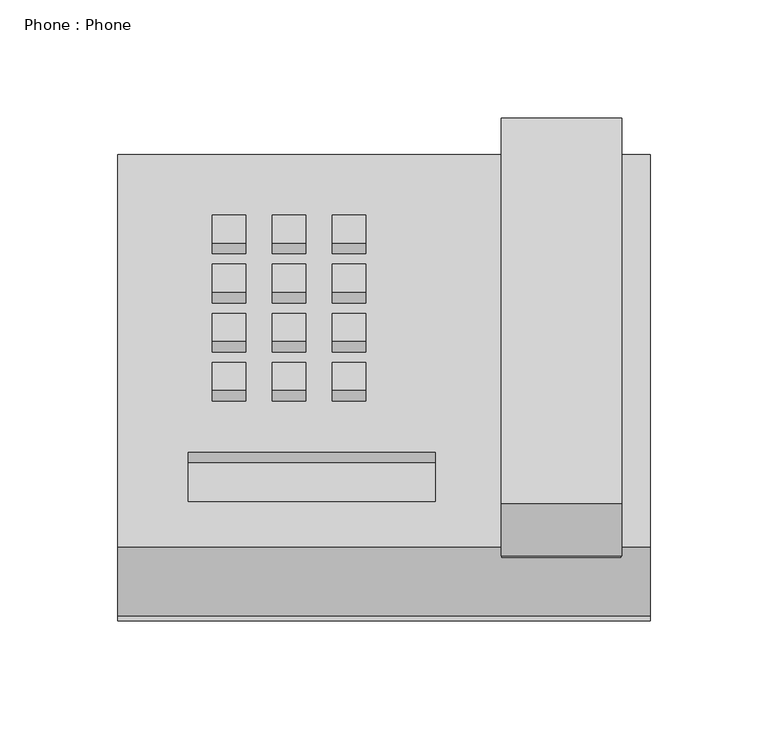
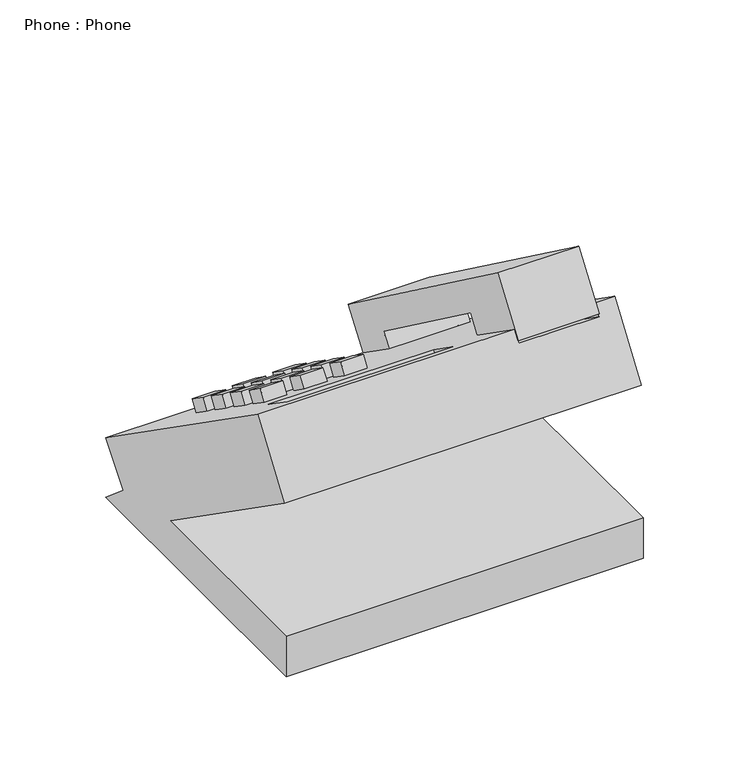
"""IFC4 building model written with IfcOpenShell, lengths in millimetres: proxy geometry, Phone : Phone."""

import ifcopenshell
import ifcopenshell.guid

model = None  # the IFC model being written
_history = None  # IfcOwnerHistory: only IFC2X3 demands one
_inside = {}  # id of a spatial element -> (the spatial element, [elements in it])
_under = {}  # id of a project, library or spatial element -> (it, [spatial elements below it])
_declared = {}  # id of a project -> (the project, [libraries it declares])
_typed = {}  # id of a type object -> (the type object, [elements of that type])
_made_of = {}  # id of a material, layer set ... -> (it, [elements and type objects made of it])


def new_model(schema):
    """Start an empty IFC model of exactly this schema.

    Asked for "IFC4X3", IfcOpenShell would pick the latest addendum, in which some entities
    have other attributes; the version numbers below select the first issue.
    IFC2X3 requires an IfcOwnerHistory on every rooted entity: one is made here for all.
    """
    global model, _history
    if schema == "IFC4X3":
        model = ifcopenshell.file(schema_version=(4, 3, 0, 0))
    else:
        model = ifcopenshell.file(schema=schema)
    _inside.clear()
    _under.clear()
    _declared.clear()
    _typed.clear()
    _made_of.clear()
    _history = None
    if model.schema == "IFC2X3":
        org = make("IfcOrganization", Name="unknown")
        user = make(
            "IfcPersonAndOrganization",
            ThePerson=make("IfcPerson", FamilyName="unknown"),
            TheOrganization=org,
        )
        app = make(
            "IfcApplication",
            ApplicationDeveloper=org,
            Version="unknown",
            ApplicationFullName="unknown",
            ApplicationIdentifier="unknown",
        )
        _history = make(
            "IfcOwnerHistory",
            OwningUser=user,
            OwningApplication=app,
            ChangeAction="ADDED",
            CreationDate=0,
        )
    return model


def make(cls, **values):
    """One entity of the class cls with the attributes given. An attribute that is None is left unset."""
    return model.create_entity(
        cls, **{name: value for name, value in values.items() if value is not None}
    )


def rooted(cls, **values):
    """An entity with a GlobalId (a new one), such as an element, a storey or a relation."""
    return make(cls, GlobalId=ifcopenshell.guid.new(), OwnerHistory=_history, **values)


def si_unit(unit_type, name, prefix=None):
    """IfcSIUnit, for example si_unit("LENGTHUNIT", "METRE", prefix="MILLI")."""
    return make("IfcSIUnit", UnitType=unit_type, Prefix=prefix, Name=name)


def assignment(units):
    """IfcUnitAssignment: the units of a project."""
    return None if units is None else make("IfcUnitAssignment", Units=units)


def point(xyz):
    """IfcCartesianPoint."""
    return None if xyz is None else make("IfcCartesianPoint", Coordinates=xyz)


def direction(xyz):
    """IfcDirection."""
    return None if xyz is None else make("IfcDirection", DirectionRatios=xyz)


def frame(location, z_axis=None, x_axis=None):
    """IfcAxis2Placement3D, a coordinate frame: its origin and axes. An axis left out is left unset."""
    return make(
        "IfcAxis2Placement3D",
        Location=point(location),
        Axis=direction(z_axis),
        RefDirection=direction(x_axis),
    )


def origin():
    """The frame at (0, 0, 0) with its axes left unset."""
    return frame((0.0, 0.0, 0.0))


def place(relative_to, where):
    """IfcLocalPlacement: puts the frame where relative to a parent placement (None: the world)."""
    return make(
        "IfcLocalPlacement", PlacementRelTo=relative_to, RelativePlacement=where
    )


def context(
    kind, dimensions, precision=None, world=None, true_north=None, identifier=None
):
    """IfcGeometricRepresentationContext, for example the 3D "Model" context."""
    return make(
        "IfcGeometricRepresentationContext",
        ContextIdentifier=identifier,
        ContextType=kind,
        CoordinateSpaceDimension=dimensions,
        Precision=precision,
        WorldCoordinateSystem=world,
        TrueNorth=true_north,
    )


def project(units=None, contexts=None):
    """IfcProject with its units and contexts."""
    return rooted(
        "IfcProject",
        Name="project",
        RepresentationContexts=contexts,
        UnitsInContext=assignment(units),
    )


def spatial(cls, under=None, at=None, **own):
    """A site, building, storey or space (cls), placed at a placement, below another one or the project."""
    s = rooted(cls, ObjectPlacement=at, **own)
    if under is not None:
        _under.setdefault(under.id(), (under, []))[1].append(s)
    return s


def polyline(points):
    """IfcPolyline through the points."""
    return make("IfcPolyline", Points=[point(p) for p in points])


def circle_curve(where, radius):
    """IfcCircle in the frame where."""
    return make("IfcCircle", Position=where, Radius=radius)


def outline(outer, holes=None, kind="AREA"):
    """IfcArbitraryClosedProfileDef: a profile drawn as a closed curve; with holes, ...WithVoids."""
    if holes is None:
        return make("IfcArbitraryClosedProfileDef", ProfileType=kind, OuterCurve=outer)
    return make(
        "IfcArbitraryProfileDefWithVoids",
        ProfileType=kind,
        OuterCurve=outer,
        InnerCurves=holes,
    )


def extrude(swept, where, along, depth):
    """IfcExtrudedAreaSolid: the profile swept, set in the frame where, extruded along a direction by depth."""
    return make(
        "IfcExtrudedAreaSolid",
        SweptArea=swept,
        Position=where,
        ExtrudedDirection=direction(along),
        Depth=depth,
    )


def shape(context_of_items, identifier, shape_type, items):
    """IfcShapeRepresentation: the items that make up one representation, for example the "Body"."""
    return make(
        "IfcShapeRepresentation",
        ContextOfItems=context_of_items,
        RepresentationIdentifier=identifier,
        RepresentationType=shape_type,
        Items=items,
    )


def source(mapping_origin, context_of_items, identifier, shape_type, items):
    """IfcRepresentationMap: a shape defined once, which mapped items show again and again."""
    return make(
        "IfcRepresentationMap",
        MappingOrigin=mapping_origin,
        MappedRepresentation=shape(context_of_items, identifier, shape_type, items),
    )


def transform(
    local_origin,
    x_axis=None,
    y_axis=None,
    z_axis=None,
    scale=None,
    scale2=None,
    scale3=None,
    uniform=True,
):
    """IfcCartesianTransformationOperator3D, or its non-uniform kind. x_axis, y_axis, z_axis: its Axis1, 2, 3."""
    if uniform:
        return make(
            "IfcCartesianTransformationOperator3D",
            Axis1=direction(x_axis),
            Axis2=direction(y_axis),
            LocalOrigin=point(local_origin),
            Scale=scale,
            Axis3=direction(z_axis),
        )
    return make(
        "IfcCartesianTransformationOperator3DnonUniform",
        Axis1=direction(x_axis),
        Axis2=direction(y_axis),
        LocalOrigin=point(local_origin),
        Scale=scale,
        Axis3=direction(z_axis),
        Scale2=scale2,
        Scale3=scale3,
    )


def mapped(mapping_source, mapping_target):
    """IfcMappedItem: shows the shape of a source again, moved by a transform."""
    return make(
        "IfcMappedItem", MappingSource=mapping_source, MappingTarget=mapping_target
    )


def made_of(thing, what):
    """Note that an element or type object is made of a material, layer set ...; save() writes the relation."""
    if what is not None:
        _made_of.setdefault(what.id(), (what, []))[1].append(thing)
    return thing


def element(
    cls,
    number,
    at=None,
    inside=None,
    cuts=None,
    type_object=None,
    material=None,
    context=None,
    identifier="Body",
    shape_type=None,
    held_by="IfcProductDefinitionShape",
    body=None,
    shapes=None,
    **own,
):
    """One element of the class cls, such as IfcWall. Its Tag is "e" and its number.

    at: its placement. inside: the storey or other place that contains it. cuts: it is an
    opening in that element (IfcRelVoidsElement). A single representation is given by context,
    identifier, shape_type and body (its items); several are given by shapes. held_by: the class
    of the entity that holds the representations. save() writes the other relations.
    """
    e = rooted(cls, Tag="e%d" % number, ObjectPlacement=at, **own)
    if body is not None:
        shapes = [shape(context, identifier, shape_type, body)]
    if shapes is not None:
        e.Representation = make(held_by, Representations=shapes)
    if inside is not None:
        _inside.setdefault(inside.id(), (inside, []))[1].append(e)
    if cuts is not None:
        rooted(
            "IfcRelVoidsElement", RelatingBuildingElement=cuts, RelatedOpeningElement=e
        )
    if type_object is not None:
        _typed.setdefault(type_object.id(), (type_object, []))[1].append(e)
    return made_of(e, material)


def aggregate(whole, parts):
    """IfcRelAggregates: a whole, such as a stair, and the parts it consists of."""
    return rooted("IfcRelAggregates", RelatingObject=whole, RelatedObjects=parts)


def save(model, path):
    """Write the relations noted so far, then the file.

    IfcRelAggregates (storeys below a building ...), IfcRelContainedInSpatialStructure (elements
    in a storey), IfcRelDefinesByType, IfcRelAssociatesMaterial and IfcRelDeclares: one each for
    every whole, place, type object, material and project.
    """
    for whole, parts in _under.values():
        aggregate(whole, parts)
    for where, things in _inside.values():
        rooted(
            "IfcRelContainedInSpatialStructure",
            RelatedElements=things,
            RelatingStructure=where,
        )
    for kind, things in _typed.values():
        rooted("IfcRelDefinesByType", RelatedObjects=things, RelatingType=kind)
    for what, things in _made_of.values():
        rooted("IfcRelAssociatesMaterial", RelatedObjects=things, RelatingMaterial=what)
    for by, libraries in _declared.values():
        rooted("IfcRelDeclares", RelatingContext=by, RelatedDefinitions=libraries)
    model.write(path)


def plane_surface(at):
    """IfcPlane: the flat surface through the origin of the frame at, square to its z axis."""
    return make("IfcPlane", Position=at)


def revolved_surface(curve, axis_point, axis_direction):
    """IfcSurfaceOfRevolution: the curve turned about the line through axis_point along axis_direction."""
    return make(
        "IfcSurfaceOfRevolution",
        SweptCurve=make("IfcArbitraryOpenProfileDef", ProfileType="CURVE", Curve=curve),
        AxisPosition=make("IfcAxis1Placement", Location=point(axis_point), Axis=direction(axis_direction)),
    )


def advanced_brep(points, edges, surfaces, faces):
    """IfcAdvancedBrep: a solid bounded by faces that lie on surfaces and meet in shared edges.

    An edge is (start, end): straight between two places in points (the first is 0);
    or (start, end, curve); or (start, end, curve, False) where it runs against its curve.
    A face is (place in surfaces, loops), or (place, loops, False) where it looks against
    its surface's normal. A loop lists edges by number (the first is 1), with a minus sign
    where the edge is run from its end to its start. The first loop is the outer one.
    """
    corners = [point(p) for p in points]
    vertices = [make("IfcVertexPoint", VertexGeometry=c) for c in corners]
    made = []
    for start, end, *more in edges:
        made.append(
            make(
                "IfcEdgeCurve",
                EdgeStart=vertices[start],
                EdgeEnd=vertices[end],
                EdgeGeometry=more[0] if more else make("IfcPolyline", Points=[corners[start], corners[end]]),
                SameSense=more[1] if len(more) > 1 else True,
            )
        )
    hull = []
    for where, loops, *sense in faces:
        bounds = []
        for j, loop in enumerate(loops):
            ring = [make("IfcOrientedEdge", EdgeElement=made[abs(k) - 1], Orientation=k > 0) for k in loop]
            bounds.append(
                make(
                    "IfcFaceOuterBound" if j == 0 else "IfcFaceBound",
                    Bound=make("IfcEdgeLoop", EdgeList=ring),
                    Orientation=True,
                )
            )
        hull.append(make("IfcAdvancedFace", Bounds=bounds, FaceSurface=surfaces[where], SameSense=sense[0] if sense else True))
    return make("IfcAdvancedBrep", Outer=make("IfcClosedShell", CfsFaces=hull))


def phone_phone_5230e7aa(model_context):
    return source(origin(), model_context, "Body", "SolidModel", [
        extrude(outline(polyline([(192.7959916, 137.7049621), (181.7747369, 121.9649843), (140.703506, 150.723379), (162.9996365, 182.5655431), (326.4110834, 62.6228576), (305.0105645, 33.4665172), (277.2292229, 53.8577982), (287.6619827, 68.0708655), (192.7959916, 137.7049621)])), frame((-197.7434319, 0.0, 0.0), z_axis=(1.0, 0.0, 0.0), x_axis=(0.0, 1.0, 0.0)), (0.0, 0.0, 1.0), 51.1683357),
        extrude(outline(polyline([(14.2875, 0.0), (14.2875, -14.3927765), (0.0, -14.3927765), (0.0, 0.0), (14.2875, 0.0)])), frame((-255.1016834, 248.0305062, 83.5344382), z_axis=(0.0, 0.5735764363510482, 0.8191520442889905), x_axis=(-1.0, 0.0, 0.0)), (0.0, 0.0, 1.0), 7.9375),
        extrude(outline(polyline([(14.2875, 0.0), (14.2875, -14.3927765), (0.0, -14.3927765), (0.0, 0.0), (14.2875, 0.0)])), frame((-255.1016834, 268.8369681, 68.9655967), z_axis=(0.0, 0.5735764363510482, 0.8191520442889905), x_axis=(-1.0, 0.0, 0.0)), (0.0, 0.0, 1.0), 7.9375),
        extrude(outline(polyline([(14.2875, 0.0), (14.2875, -14.3927765), (0.0, -14.3927765), (0.0, 0.0), (14.2875, 0.0)])), frame((-280.5016834, 268.8369681, 68.9655967), z_axis=(0.0, 0.5735764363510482, 0.8191520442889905), x_axis=(-1.0, 0.0, 0.0)), (0.0, 0.0, 1.0), 7.9375),
        extrude(outline(polyline([(14.2875, 0.0), (14.2875, -14.3927765), (0.0, -14.3927765), (0.0, 0.0), (14.2875, 0.0)])), frame((-305.9016834, 268.8369681, 68.9655967), z_axis=(0.0, 0.5735764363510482, 0.8191520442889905), x_axis=(-1.0, 0.0, 0.0)), (0.0, 0.0, 1.0), 7.9375),
        extrude(outline(polyline([(14.2875, 0.0), (14.2875, -14.3927765), (0.0, -14.3927765), (0.0, 0.0), (14.2875, 0.0)])), frame((-305.9016834, 248.0305062, 83.5344382), z_axis=(0.0, 0.5735764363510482, 0.8191520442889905), x_axis=(-1.0, 0.0, 0.0)), (0.0, 0.0, 1.0), 7.9375),
        extrude(outline(polyline([(14.2875, 0.0), (14.2875, -14.3927765), (0.0, -14.3927765), (0.0, 0.0), (14.2875, 0.0)])), frame((-280.5016834, 227.2240442, 98.1032797), z_axis=(0.0, 0.5735764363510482, 0.8191520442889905), x_axis=(-1.0, 0.0, 0.0)), (0.0, 0.0, 1.0), 7.9375),
        extrude(outline(polyline([(14.2875, 0.0), (14.2875, -14.3927765), (0.0, -14.3927765), (0.0, 0.0), (14.2875, 0.0)])), frame((-305.9016834, 227.2240442, 98.1032797), z_axis=(0.0, 0.5735764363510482, 0.8191520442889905), x_axis=(-1.0, 0.0, 0.0)), (0.0, 0.0, 1.0), 7.9375),
        extrude(outline(polyline([(14.2875, 0.0), (14.2875, -14.3927765), (0.0, -14.3927765), (0.0, 0.0), (14.2875, 0.0)])), frame((-280.5016834, 248.0305062, 83.5344382), z_axis=(0.0, 0.5735764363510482, 0.8191520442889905), x_axis=(-1.0, 0.0, 0.0)), (0.0, 0.0, 1.0), 7.9375),
        extrude(outline(polyline([(14.2875, 0.0), (14.2875, -14.3927765), (0.0, -14.3927765), (0.0, 0.0), (14.2875, 0.0)])), frame((-255.1016834, 227.2240442, 98.1032797), z_axis=(0.0, 0.5735764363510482, 0.8191520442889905), x_axis=(-1.0, 0.0, 0.0)), (0.0, 0.0, 1.0), 7.9375),
        extrude(outline(polyline([(14.2875, 0.0), (14.2875, -14.3927765), (0.0, -14.3927765), (0.0, 0.0), (14.2875, 0.0)])), frame((-305.9016834, 206.4175823, 112.6721212), z_axis=(0.0, 0.5735764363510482, 0.8191520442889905), x_axis=(-1.0, 0.0, 0.0)), (0.0, 0.0, 1.0), 7.9375),
        extrude(outline(polyline([(14.2875, 0.0), (14.2875, -14.3927765), (0.0, -14.3927765), (0.0, 0.0), (14.2875, 0.0)])), frame((-280.5016834, 206.4175823, 112.6721212), z_axis=(0.0, 0.5735764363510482, 0.8191520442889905), x_axis=(-1.0, 0.0, 0.0)), (0.0, 0.0, 1.0), 7.9375),
        extrude(outline(polyline([(14.2875, 0.0), (14.2875, -14.3927765), (0.0, -14.3927765), (0.0, 0.0), (14.2875, 0.0)])), frame((-255.1016834, 206.4175823, 112.6721212), z_axis=(0.0, 0.5735764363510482, 0.8191520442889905), x_axis=(-1.0, 0.0, 0.0)), (0.0, 0.0, 1.0), 7.9375),
        advanced_brep(
        [(-134.6688462, 310.896229, 0.0), (-134.6688462, 291.4387001, 16.3268053), (-134.6688462, 310.896229, 39.5153852), (-134.6688462, 144.4445336, 156.0661171), (-134.6688462, 115.3068506, 114.4531932), (-134.6688462, 240.1456221, 27.0401443), (-134.6688462, 113.1456221, 27.0401443), (-134.6688462, 113.1456221, 0.0), (-360.0938462, 310.896229, 0.0), (-360.0938462, 113.1456221, 0.0), (-360.0938462, 113.1456221, 27.0401443), (-360.0938462, 240.1456221, 27.0401443), (-360.0938462, 115.3068506, 114.4531932), (-360.0938462, 144.4445336, 156.0661171), (-360.0938462, 310.896229, 39.5153852), (-360.0938462, 291.4387001, 16.3268053), (-197.7434319, 310.896229, 39.5153852), (-197.7434319, 305.774613, 33.411681), (-146.9434319, 305.774613, 33.411681), (-146.9434319, 310.896229, 39.5153852), (-146.9434319, 295.2913825, 50.4420163), (-197.7434319, 295.2913825, 50.4420163), (-197.7434319, 144.4445336, 156.0661171), (-197.7434319, 165.2509955, 141.4972756), (-146.9434319, 165.2509955, 141.4972756), (-146.9434319, 144.4445336, 156.0661171), (-225.6135974, 163.8453353, 142.4815295), (-330.264726, 163.8453353, 142.4815295), (-330.264726, 184.6517972, 127.912688), (-225.6135974, 184.6517972, 127.912688), (-146.9434319, 139.8917706, 149.5640977), (-197.7434319, 139.8917706, 149.5640977), (-330.264726, 159.2925723, 135.9795101), (-225.6135974, 159.2925723, 135.9795101), (-225.6135974, 180.0990342, 121.4106686), (-330.264726, 180.0990342, 121.4106686), (-146.9434319, 160.6982325, 134.9952562), (-197.7434319, 160.6982325, 134.9952562), (-197.7434319, 290.7386196, 43.939997), (-146.9434319, 290.7386196, 43.939997)],
        [
            (0, 1),
            (1, 2),
            (2, 3),
            (3, 4),
            (4, 5),
            (5, 6),
            (6, 7),
            (7, 0),
            (8, 9),
            (9, 10),
            (10, 11),
            (11, 12),
            (12, 13),
            (13, 14),
            (14, 15),
            (15, 8),
            (0, 8),
            (15, 1),
            (14, 16),
            (16, 17),
            (17, 18),
            (18, 19),
            (19, 2),
            (19, 20),
            (20, 21, circle_curve(frame((-172.3434319, 301.9734201, 45.7632032), z_axis=(0.0, -0.5735764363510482, -0.8191520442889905), x_axis=(-1.0, 0.0, 0.0)), 26.6777233)),
            (21, 16),
            (13, 22),
            (22, 23),
            (23, 24, circle_curve(frame((-172.3434319, 165.2509955, 141.4972756), z_axis=(0.0, -0.5735764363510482, -0.8191520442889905), x_axis=(-1.0, 0.0, 0.0)), 25.4)),
            (24, 25),
            (25, 3),
            (26, 27),
            (27, 28),
            (28, 29),
            (29, 26),
            (25, 30),
            (30, 31),
            (31, 22),
            (12, 4),
            (11, 5),
            (10, 6),
            (9, 7),
            (32, 33),
            (33, 34),
            (34, 35),
            (35, 32),
            (32, 27),
            (26, 33),
            (29, 34),
            (28, 35),
            (30, 36),
            (36, 37, circle_curve(frame((-172.3434319, 160.6982325, 134.9952562), z_axis=(0.0, 0.5735764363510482, 0.8191520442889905), x_axis=(-1.0, 0.0, 0.0)), 25.4)),
            (37, 31),
            (24, 36),
            (23, 37),
            (38, 39, circle_curve(frame((-172.3434319, 297.4206572, 39.2611839), z_axis=(0.0, 0.5735764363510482, 0.8191520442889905), x_axis=(-1.0, 0.0, 0.0)), 26.6777233)),
            (39, 18),
            (17, 38),
            (39, 20),
            (21, 38),
        ],
        [
            plane_surface(frame((-134.6688462, 310.896229, 0.0), z_axis=(1.0, 0.0, 0.0), x_axis=(0.0, -0.7660444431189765, 0.6427876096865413))),
            plane_surface(frame((-360.0938462, 310.896229, 0.0), z_axis=(-1.0, 0.0, 0.0), x_axis=(0.0, 0.7660444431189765, -0.6427876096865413))),
            plane_surface(frame((-134.6688462, 310.896229, 0.0), z_axis=(0.0, 0.6427876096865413, 0.7660444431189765), x_axis=(-1.0, 0.0, 0.0))),
            plane_surface(frame((-134.6688462, 291.4387001, 16.3268053), z_axis=(0.0, 0.7660444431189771, -0.6427876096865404), x_axis=(-1.0, 0.0, 0.0))),
            plane_surface(frame((-134.6688462, 310.896229, 39.5153852), z_axis=(0.0, 0.5735764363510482, 0.8191520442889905), x_axis=(-1.0, 0.0, 0.0))),
            plane_surface(frame((-134.6688462, 144.4445336, 156.0661171), z_axis=(0.0, -0.8191520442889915, 0.5735764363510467), x_axis=(-1.0, 0.0, 0.0))),
            plane_surface(frame((-134.6688462, 115.3068506, 114.4531932), z_axis=(0.0, -0.57357643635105, -0.819152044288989), x_axis=(-1.0, 0.0, 0.0))),
            plane_surface(frame((-134.6688462, 240.1456221, 27.0401443), z_axis=(0.0, 0.0, 1.0), x_axis=(-1.0, 0.0, 0.0))),
            plane_surface(frame((-134.6688462, 113.1456221, 27.0401443), z_axis=(0.0, -1.0, 0.0), x_axis=(-1.0, 0.0, 0.0))),
            plane_surface(frame((-134.6688462, 113.1456221, 0.0), z_axis=(0.0, 0.0, -1.0), x_axis=(-1.0, 0.0, 0.0))),
            plane_surface(frame((-203.264726, 159.2925723, 135.9795101), z_axis=(0.0, 0.5735764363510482, 0.8191520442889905), x_axis=(-1.0, 0.0, 0.0))),
            plane_surface(frame((-330.264726, 163.8453353, 142.4815295), z_axis=(0.0, 0.8191520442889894, -0.5735764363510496), x_axis=(0.0, -0.5735764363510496, -0.8191520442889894))),
            plane_surface(frame((-225.6135974, 163.8453353, 142.4815295), z_axis=(-1.0, 0.0, 0.0), x_axis=(0.0, -0.5735764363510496, -0.8191520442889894))),
            plane_surface(frame((-225.6135974, 184.6517972, 127.912688), z_axis=(0.0, -0.8191520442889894, 0.5735764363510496), x_axis=(0.0, -0.5735764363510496, -0.8191520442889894))),
            plane_surface(frame((-330.264726, 184.6517972, 127.912688), z_axis=(1.0, 0.0, 0.0), x_axis=(0.0, -0.5735764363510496, -0.8191520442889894))),
            plane_surface(frame((-146.9434319, 139.8917706, 149.5640977), z_axis=(0.0, 0.5735764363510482, 0.8191520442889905), x_axis=(-1.0, 0.0, 0.0))),
            plane_surface(frame((-146.9434319, 144.4445336, 156.0661171), z_axis=(-1.0, 0.0, 0.0), x_axis=(0.0, -0.5735764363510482, -0.8191520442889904))),
            revolved_surface(polyline([(-197.74343190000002, 165.25099549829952, 141.4972756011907), (-197.74343190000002, 160.6982325, 134.9952562)]), (-172.3434319, 160.6982325, 134.9952562), (0.0, 0.5735764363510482, 0.8191520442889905)),
            plane_surface(frame((-197.7434319, 165.2509955, 141.4972756), z_axis=(1.0, 0.0, 0.0), x_axis=(0.0, -0.5735764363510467, -0.8191520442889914))),
            plane_surface(frame((-146.9434319, 308.4443251, 31.5423285), z_axis=(0.0, 0.5735764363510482, 0.8191520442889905), x_axis=(0.0, -0.8191520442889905, 0.5735764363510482))),
            plane_surface(frame((-146.9434319, 295.2913825, 50.4420163), z_axis=(-1.0000000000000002, 0.0, 0.0), x_axis=(0.0, -0.5735764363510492, -0.8191520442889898))),
            plane_surface(frame((-197.7434319, 312.997088, 38.0443478), z_axis=(1.0000000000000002, 0.0, 0.0), x_axis=(0.0, -0.5735764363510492, -0.8191520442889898))),
            revolved_surface(polyline([(-199.0211552, 301.97342011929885, 45.76320318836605), (-199.0211552, 297.4206572, 39.2611839)]), (-172.3434319, 297.4206572, 39.2611839), (0.0, 0.5735764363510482, 0.8191520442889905)),
        ],
        [
            (0, [[1, 2, 3, 4, 5, 6, 7, 8]]),
            (1, [[9, 10, 11, 12, 13, 14, 15, 16]]),
            (2, [[-1, 17, -16, 18]]),
            (3, [[-2, -18, -15, 19, 20, 21, 22, 23]]),
            (4, [[-3, -23, 24, 25, 26, -19, -14, 27, 28, 29, 30, 31], [32, 33, 34, 35]]),
            (5, [[-4, -31, 36, 37, 38, -27, -13, 39]]),
            (6, [[-5, -39, -12, 40]]),
            (7, [[-6, -40, -11, 41]]),
            (8, [[-7, -41, -10, 42]]),
            (9, [[-8, -42, -9, -17]]),
            (10, [[43, 44, 45, 46]]),
            (11, [[-43, 47, -32, 48]]),
            (12, [[-44, -48, -35, 49]]),
            (13, [[-45, -49, -34, 50]]),
            (14, [[-46, -50, -33, -47]]),
            (15, [[51, 52, 53, -37]]),
            (16, [[-51, -36, -30, 54]]),
            (17, [[-52, -54, -29, 55]]),
            (18, [[-53, -55, -28, -38]]),
            (19, [[56, 57, -21, 58]]),
            (20, [[59, -24, -22, -57]]),
            (21, [[60, -58, -20, -26]]),
            (22, [[-56, -60, -25, -59]]),
        ],
    ),
    ])


if __name__ == "__main__":
    model = new_model("IFC4")
    model_context = context("Model", 3, world=origin())
    ifc_project = project(units=[si_unit("LENGTHUNIT", "METRE", prefix="MILLI")], contexts=[model_context])
    site = spatial("IfcSite", under=ifc_project)
    building = spatial("IfcBuilding", under=site)
    placement = place(None, origin())
    phone_phone_shape = phone_phone_5230e7aa(model_context)
    element("IfcBuildingElementProxy", 1, Name="Phone : Phone", ObjectType="Phone : Phone", at=placement, inside=building, context=model_context, shape_type="MappedRepresentation", body=[
        mapped(phone_phone_shape, transform((0.0, 0.0, 0.0), x_axis=(1.0, 0.0, 0.0), y_axis=(0.0, 1.0, 0.0), z_axis=(0.0, 0.0, 1.0))),
    ])
    save(model, "model.ifc")
